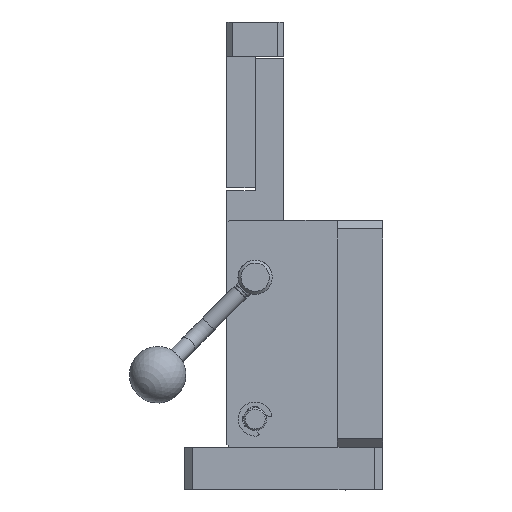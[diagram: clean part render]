
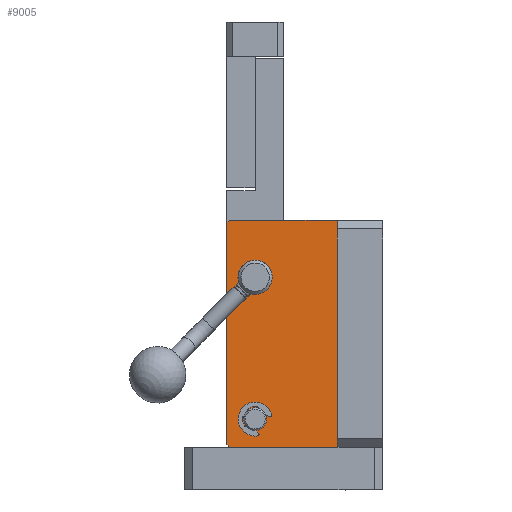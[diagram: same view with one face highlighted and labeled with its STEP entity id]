
A CAD part, front view. The second image highlights one B-rep face of the part: STEP entity #9005.
In plain terms, the highlighted planar face has unit normal (0, -1, 0).
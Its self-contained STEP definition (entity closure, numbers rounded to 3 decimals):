
#1058=PLANE('',#20131);
#1734=LINE('',#29161,#2450);
#1746=LINE('',#29189,#2462);
#1763=LINE('',#29244,#2479);
#1767=LINE('',#29255,#2483);
#1768=LINE('',#29257,#2484);
#1769=LINE('',#29258,#2485);
#2450=VECTOR('',#23894,1.);
#2462=VECTOR('',#23914,1.);
#2479=VECTOR('',#23961,1.);
#2483=VECTOR('',#23971,1.);
#2484=VECTOR('',#23972,1.);
#2485=VECTOR('',#23973,1.);
#9005=ADVANCED_FACE('',(#10232,#10233,#10234),#1058,.F.);
#10232=FACE_BOUND('',#11704,.T.);
#10233=FACE_BOUND('',#11705,.T.);
#10234=FACE_BOUND('',#11706,.T.);
#11704=EDGE_LOOP('',(#14845));
#11705=EDGE_LOOP('',(#14846));
#11706=EDGE_LOOP('',(#14847,#14848,#14849,#14850,#14851,#14852));
#14845=ORIENTED_EDGE('',*,*,#17815,.F.);
#14846=ORIENTED_EDGE('',*,*,#17816,.F.);
#14847=ORIENTED_EDGE('',*,*,#17769,.T.);
#14848=ORIENTED_EDGE('',*,*,#17817,.F.);
#14849=ORIENTED_EDGE('',*,*,#17818,.T.);
#14850=ORIENTED_EDGE('',*,*,#17811,.T.);
#14851=ORIENTED_EDGE('',*,*,#17782,.F.);
#14852=ORIENTED_EDGE('',*,*,#17819,.F.);
#16180=VERTEX_POINT('',#29159);
#16182=VERTEX_POINT('',#29162);
#16193=VERTEX_POINT('',#29188);
#16194=VERTEX_POINT('',#29190);
#16217=VERTEX_POINT('',#29245);
#16219=VERTEX_POINT('',#29252);
#16220=VERTEX_POINT('',#29254);
#16221=VERTEX_POINT('',#29256);
#17769=EDGE_CURVE('',#16182,#16180,#1734,.T.);
#17782=EDGE_CURVE('',#16193,#16194,#1746,.T.);
#17811=EDGE_CURVE('',#16217,#16194,#1763,.T.);
#17815=EDGE_CURVE('',#16219,#16219,#18567,.T.);
#17816=EDGE_CURVE('',#16220,#16220,#18568,.T.);
#17817=EDGE_CURVE('',#16221,#16180,#1767,.T.);
#17818=EDGE_CURVE('',#16221,#16217,#1768,.T.);
#17819=EDGE_CURVE('',#16182,#16193,#1769,.T.);
#18567=CIRCLE('',#20129,4.);
#18568=CIRCLE('',#20130,6.);
#20129=AXIS2_PLACEMENT_3D('',#29251,#23967,#23968);
#20130=AXIS2_PLACEMENT_3D('',#29253,#23969,#23970);
#20131=AXIS2_PLACEMENT_3D('',#29259,#23974,#23975);
#23894=DIRECTION('',(0.,0.,-1.));
#23914=DIRECTION('',(1.,0.,0.));
#23961=DIRECTION('',(0.,0.,1.));
#23967=DIRECTION('',(0.,-1.,0.));
#23968=DIRECTION('',(-1.,0.,0.));
#23969=DIRECTION('',(0.,-1.,0.));
#23970=DIRECTION('',(-1.,0.,0.));
#23971=DIRECTION('',(-0.707,0.,0.707));
#23972=DIRECTION('',(1.,0.,0.));
#23973=DIRECTION('',(0.707,0.,0.707));
#23974=DIRECTION('',(0.,1.,0.));
#23975=DIRECTION('',(-1.,0.,0.));
#29159=CARTESIAN_POINT('',(15.,-209.,16.));
#29161=CARTESIAN_POINT('',(15.,-209.,95.));
#29162=CARTESIAN_POINT('',(15.,-209.,94.));
#29188=CARTESIAN_POINT('',(16.,-209.,95.));
#29189=CARTESIAN_POINT('',(54.,-209.,95.));
#29190=CARTESIAN_POINT('',(54.,-209.,95.));
#29244=CARTESIAN_POINT('',(54.,-209.,95.));
#29245=CARTESIAN_POINT('',(54.,-209.,15.));
#29251=CARTESIAN_POINT('',(25.,-209.,25.));
#29252=CARTESIAN_POINT('',(21.,-209.,25.));
#29253=CARTESIAN_POINT('',(25.,-209.,75.));
#29254=CARTESIAN_POINT('',(19.,-209.,75.));
#29255=CARTESIAN_POINT('',(16.,-209.,15.));
#29256=CARTESIAN_POINT('',(16.,-209.,15.));
#29257=CARTESIAN_POINT('',(54.,-209.,15.));
#29258=CARTESIAN_POINT('',(16.,-209.,95.));
#29259=CARTESIAN_POINT('',(15.,-209.,15.));
